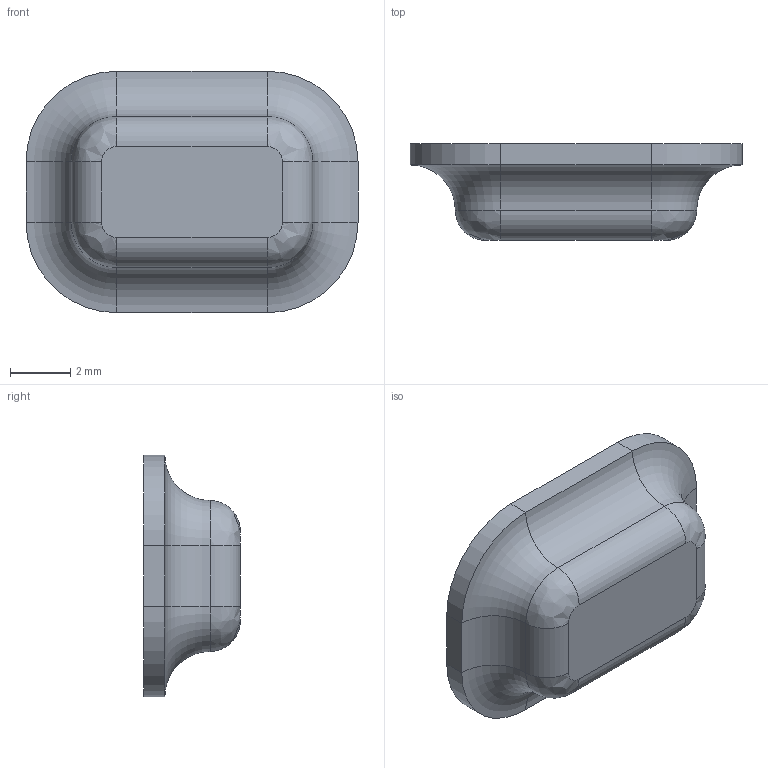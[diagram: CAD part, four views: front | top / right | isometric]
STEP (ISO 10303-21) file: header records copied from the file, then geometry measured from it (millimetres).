
FILE_DESCRIPTION(/* description */ (''),/* implementation_level */ '2;1');
FILE_NAME(/* name */ '',/* time_stamp */ '2025-02-03T16:29:48+03:00',/* author */ ('Артур'),/* organization */ (''),/* preprocessor_version */ 'ST-DEVELOPER v19.2',/* originating_system */ 'Autodesk Inventor 2023',/* authorisation */ '');
FILE_SCHEMA (('AUTOMOTIVE_DESIGN { 1 0 10303 214 3 1 1 }'));
Length unit declared in the file: millimetre
Products named in the file (1): Боковая пластина 
0,7мм 2.5мм ИТ1
Bounding box: 11 x 3.2 x 8 mm (x, y, z)
Volume: 78.3 mm3; surface area: 246.8 mm2
Topology: 1 solids, 1 shells, 42 faces, 88 edges, 48 vertices
Faces by surface type: cylinder 20, torus 12, plane 6, bspline 4
Entity records: 1222 total; most frequent: DIRECTION 222, CARTESIAN_POINT 211, ORIENTED_EDGE 176, AXIS2_PLACEMENT_3D 95, EDGE_CURVE 88, CIRCLE 56, VERTEX_POINT 48, STYLED_ITEM 43
